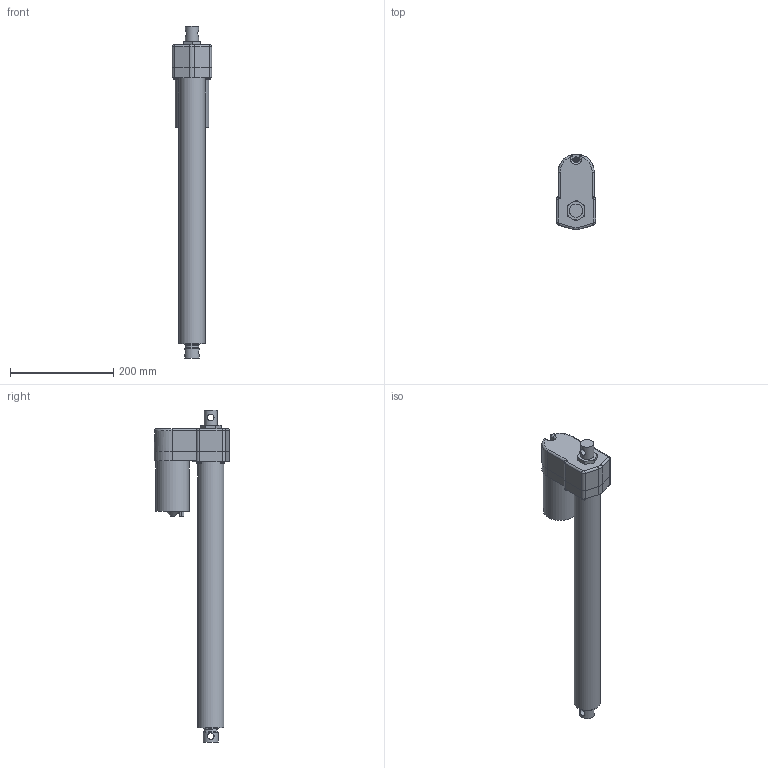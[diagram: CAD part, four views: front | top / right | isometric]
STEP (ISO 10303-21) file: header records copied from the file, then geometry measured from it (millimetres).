
FILE_DESCRIPTION (( 'STEP AP214' ), '1' );
FILE_NAME ('D12-05A5-16M0N-tollo.step', '2020-04-13T14:31:42', ( '' ), ( '' ), 'SwSTEP 2.0', 'SolidWorks 2010', '' );
FILE_SCHEMA (( 'AUTOMOTIVE_DESIGN' ));
Length unit declared in the file: millimetre
Products named in the file (7): Electrak-LA10-Motor-D12-05A5-16M0N-tollo_Electrak-LA10-Motor-D12-05A5-16M0N-tollo; Electrak-LA10-Rear-D12-05A5-16M0N-tollo_Electrak-LA10-Rear-D12-05A5-16M0N-tollo; Electrak-LA10-Tube-D12-05A5-16M0N-tollo_Electrak-LA10-Tube-D12-05A5-16M0N-tollo; Electrak-LA10-Rod-D12-05A5-16M0N-tollo_Electrak-LA10-Rod-D12-05A5-16M0N-tollo; Screw-MFX-H-M5-D12-05A5-16M0N-tollo_Screw-MFX-H-M5-D12-05A5-16M0N-tollo; Screw-M6S-M5-D12-05A5-16M0N-tollo_Screw-M6S-M5-D12-05A5-16M0N-tollo; D12-05A5-16M0N-tollo
Assembly tree (9 placements, depth 2):
  D12-05A5-16M0N-tollo
    Electrak-LA10-Tube-D12-05A5-16M0N-tollo_Electrak-LA10-Tube-D12-05A5-16M0N-tollo
    Screw-M6S-M5-D12-05A5-16M0N-tollo_Screw-M6S-M5-D12-05A5-16M0N-tollo  x4
    Screw-MFX-H-M5-D12-05A5-16M0N-tollo_Screw-MFX-H-M5-D12-05A5-16M0N-tollo
    Electrak-LA10-Rod-D12-05A5-16M0N-tollo_Electrak-LA10-Rod-D12-05A5-16M0N-tollo
    Electrak-LA10-Motor-D12-05A5-16M0N-tollo_Electrak-LA10-Motor-D12-05A5-16M0N-tollo
    Electrak-LA10-Rear-D12-05A5-16M0N-tollo_Electrak-LA10-Rear-D12-05A5-16M0N-tollo
Bounding box: 76.2 x 147.19 x 644 mm (x, y, z)
Volume: 1980850.9 mm3; surface area: 269822.6 mm2
Topology: 9 solids, 9 shells, 221 faces, 506 edges, 322 vertices
Faces by surface type: plane 91, cylinder 84, cone 30, torus 14, bspline 2
Full cylindrical faces by diameter (mm): 4 x2, 4.126 x5, 4.8 x10, 5 x5, 7.878 x4, 9.3 x1, 12.8 x2, 25.4 x1, 28.6 x4, 51 x1, 65.3 x1
Entity records: 5123 total; most frequent: CARTESIAN_POINT 1484, DIRECTION 724, ORIENTED_EDGE 594, AXIS2_PLACEMENT_3D 305, EDGE_CURVE 297, EDGE_LOOP 224, VERTEX_POINT 213, FACE_OUTER_BOUND 179
